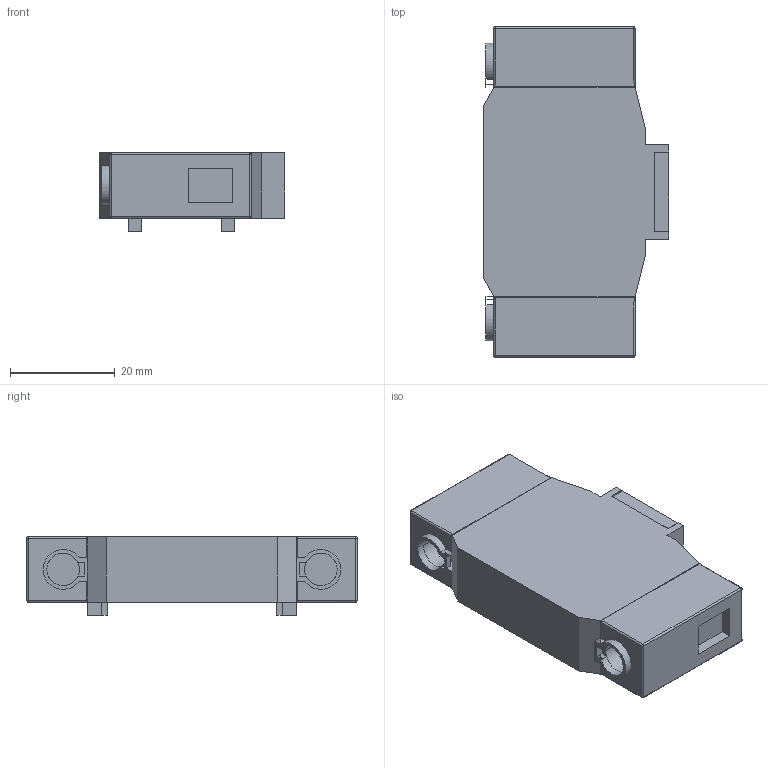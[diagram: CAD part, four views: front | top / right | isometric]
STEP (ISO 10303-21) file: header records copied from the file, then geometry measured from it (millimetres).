
FILE_DESCRIPTION((''),'2;1');
FILE_NAME('194E-A16-PE','2023-08-07T14:51:16',('MGonczarenk'),('Rockwell Automation'),'CREO PARAMETRIC BY PTC INC, 2022162','CREO PARAMETRIC BY PTC INC, 2022162','');
FILE_SCHEMA(('CONFIG_CONTROL_DESIGN'));
Length unit declared in the file: millimetre
Products named in the file (1): 194E-A16-PE
Bounding box: 35.4 x 62.9 x 15 mm (x, y, z)
Surface area: 7127.1 mm2 (no closed solid volume)
Topology: 0 solids, 3 shells, 114 faces, 345 edges, 232 vertices
Faces by surface type: plane 82, cylinder 25, sphere 7
Entity records: 3819 total; most frequent: CARTESIAN_POINT 719, DIRECTION 627, ORIENTED_EDGE 578, EDGE_CURVE 345, VECTOR 275, LINE 275, VERTEX_POINT 232, AXIS2_PLACEMENT_3D 176
